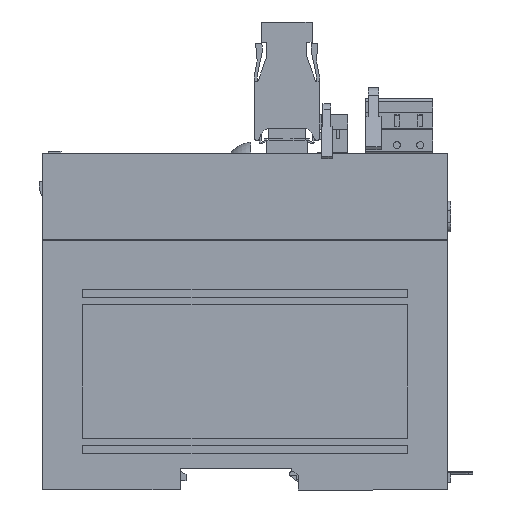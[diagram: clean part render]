
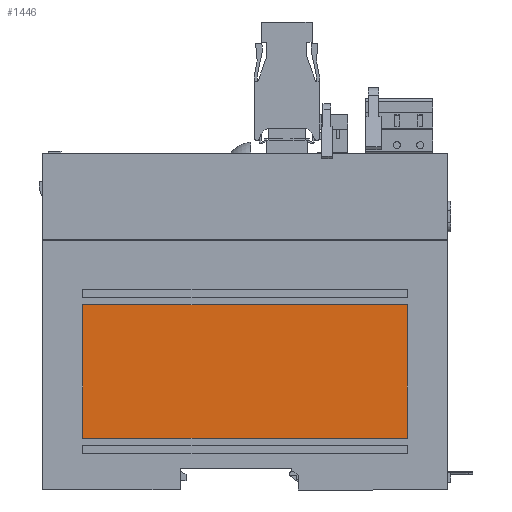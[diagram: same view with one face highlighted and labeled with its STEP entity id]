
A CAD part, left-side view. The second image highlights one B-rep face of the part: STEP entity #1446.
In plain terms, the highlighted planar face has unit normal (-1, 0, 0).
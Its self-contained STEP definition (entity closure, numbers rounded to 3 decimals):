
#1356 = VERTEX_POINT ( 'NONE', #6292 ) ;
#1376 = EDGE_LOOP ( 'NONE', ( #1445, #1450, #1448, #1452 ) ) ;
#1388 = EDGE_CURVE ( 'NONE', #1356, #1396, #6366, .T. ) ;
#1395 = EDGE_CURVE ( 'NONE', #1403, #1408, #6341, .T. ) ;
#1396 = VERTEX_POINT ( 'NONE', #6343 ) ;
#1403 = VERTEX_POINT ( 'NONE', #6342 ) ;
#1408 = VERTEX_POINT ( 'NONE', #6393 ) ;
#1409 = EDGE_CURVE ( 'NONE', #1408, #1356, #6402, .T. ) ;
#1445 = ORIENTED_EDGE ( 'NONE', *, *, #1409, .T. ) ;
#1446 = ADVANCED_FACE ( 'NONE', ( #6467 ), #6464, .T. ) ;
#1448 = ORIENTED_EDGE ( 'NONE', *, *, #1458, .T. ) ;
#1450 = ORIENTED_EDGE ( 'NONE', *, *, #1388, .T. ) ;
#1452 = ORIENTED_EDGE ( 'NONE', *, *, #1395, .T. ) ;
#1458 = EDGE_CURVE ( 'NONE', #1396, #1403, #12621, .T. ) ;
#6292 = CARTESIAN_POINT ( 'NONE',  ( 0.5, -55., 16.6 ) ) ;
#6341 = LINE ( 'NONE', #6364, #6346 ) ;
#6342 = CARTESIAN_POINT ( 'NONE',  ( 0.5, 49., 59.4 ) ) ;
#6343 = CARTESIAN_POINT ( 'NONE',  ( 0.5, -55., 59.4 ) ) ;
#6345 = DIRECTION ( 'NONE',  ( 0., 0., -1. ) ) ;
#6346 = VECTOR ( 'NONE', #6345, 1000. ) ;
#6348 = DIRECTION ( 'NONE',  ( 0., 0., 1. ) ) ;
#6349 = VECTOR ( 'NONE', #6348, 1000. ) ;
#6364 = CARTESIAN_POINT ( 'NONE',  ( 0.5, 49., 16.6 ) ) ;
#6365 = CARTESIAN_POINT ( 'NONE',  ( 0.5, -55., 16.6 ) ) ;
#6366 = LINE ( 'NONE', #6365, #6349 ) ;
#6385 = DIRECTION ( 'NONE',  ( 0., -1., 0. ) ) ;
#6386 = VECTOR ( 'NONE', #6385, 1000. ) ;
#6387 = CARTESIAN_POINT ( 'NONE',  ( 0.5, 49., 16.6 ) ) ;
#6393 = CARTESIAN_POINT ( 'NONE',  ( 0.5, 49., 16.6 ) ) ;
#6402 = LINE ( 'NONE', #6387, #6386 ) ;
#6412 = AXIS2_PLACEMENT_3D ( 'NONE', #6466, #6451, #6450 ) ;
#6450 = DIRECTION ( 'NONE',  ( 0., 0., 1. ) ) ;
#6451 = DIRECTION ( 'NONE',  ( -1., 0., 0. ) ) ;
#6464 = PLANE ( 'NONE',  #6412 ) ;
#6466 = CARTESIAN_POINT ( 'NONE',  ( 0.5, 49., 16.6 ) ) ;
#6467 = FACE_OUTER_BOUND ( 'NONE', #1376, .T. ) ;
#12594 = DIRECTION ( 'NONE',  ( 0., 1., 0. ) ) ;
#12595 = VECTOR ( 'NONE', #12594, 1000. ) ;
#12608 = CARTESIAN_POINT ( 'NONE',  ( 0.5, 49., 59.4 ) ) ;
#12621 = LINE ( 'NONE', #12608, #12595 ) ;
